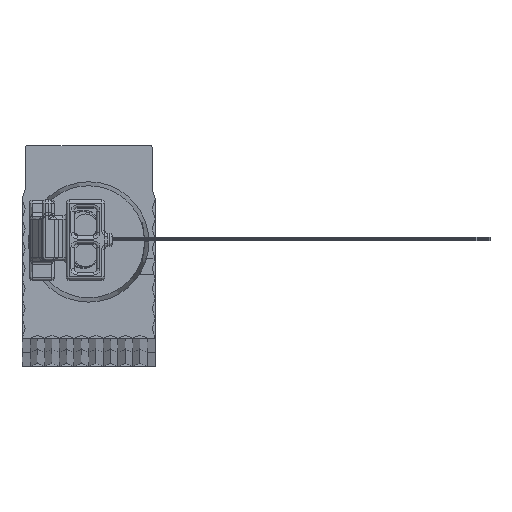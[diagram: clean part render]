
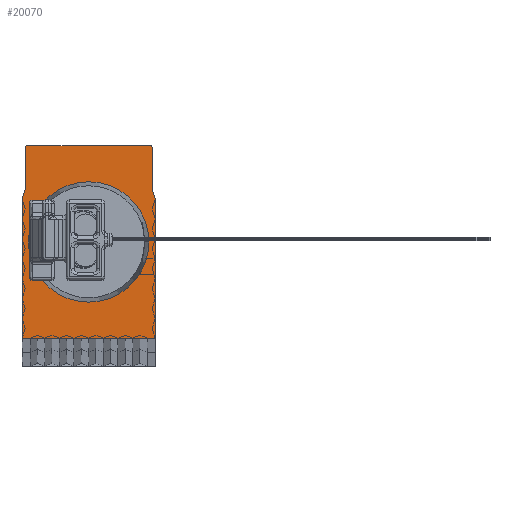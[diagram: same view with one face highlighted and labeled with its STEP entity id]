
A CAD part, top view. The second image highlights one B-rep face of the part: STEP entity #20070.
In plain terms, the highlighted planar face has unit normal (0, 0, 1).
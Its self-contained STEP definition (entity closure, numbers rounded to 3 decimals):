
#81 = DIRECTION ( 'NONE',  ( 0., 0., -1. ) ) ;
#373 = CIRCLE ( 'NONE', #2709, 0.1 ) ;
#728 = DIRECTION ( 'NONE',  ( 0.307, -0.952, 0. ) ) ;
#944 = VECTOR ( 'NONE', #14080, 1000. ) ;
#1108 = DIRECTION ( 'NONE',  ( 0., -1., 0. ) ) ;
#1178 = CARTESIAN_POINT ( 'NONE',  ( -4.15, 8.68, 0. ) ) ;
#1219 = CARTESIAN_POINT ( 'NONE',  ( 3.85, 12., 0. ) ) ;
#2050 = DIRECTION ( 'NONE',  ( 0., -1., 0. ) ) ;
#2675 = CARTESIAN_POINT ( 'NONE',  ( -3.95, 9.3, 0. ) ) ;
#2709 = AXIS2_PLACEMENT_3D ( 'NONE', #10850, #7290, #5450 ) ;
#2750 = CARTESIAN_POINT ( 'NONE',  ( -3.95, 9.3, 0. ) ) ;
#2791 = VECTOR ( 'NONE', #728, 1000. ) ;
#2938 = DIRECTION ( 'NONE',  ( 0., -1., 0. ) ) ;
#3384 = DIRECTION ( 'NONE',  ( 0.307, 0.952, 0. ) ) ;
#3750 = EDGE_LOOP ( 'NONE', ( #7066, #17452 ) ) ;
#3769 = CARTESIAN_POINT ( 'NONE',  ( 4.15, 20.668, 0. ) ) ;
#3827 = AXIS2_PLACEMENT_3D ( 'NONE', #4129, #22873, #4000 ) ;
#4000 = DIRECTION ( 'NONE',  ( 1., 0., 0. ) ) ;
#4001 = VECTOR ( 'NONE', #2938, 1000. ) ;
#4073 = AXIS2_PLACEMENT_3D ( 'NONE', #9583, #20593, #11061 ) ;
#4129 = CARTESIAN_POINT ( 'NONE',  ( 0., 6., 0. ) ) ;
#4161 = CARTESIAN_POINT ( 'NONE',  ( 4.15, 8.68, 0. ) ) ;
#4224 = VERTEX_POINT ( 'NONE', #2675 ) ;
#4387 = EDGE_CURVE ( 'NONE', #21118, #11752, #10763, .T. ) ;
#4490 = EDGE_CURVE ( 'NONE', #11978, #11752, #5729, .T. ) ;
#4913 = EDGE_CURVE ( 'NONE', #12511, #23833, #373, .T. ) ;
#5127 = CARTESIAN_POINT ( 'NONE',  ( 3.95, 9.3, 0. ) ) ;
#5224 = CARTESIAN_POINT ( 'NONE',  ( -4.15, 0., 0. ) ) ;
#5450 = DIRECTION ( 'NONE',  ( -1., 0., 0. ) ) ;
#5614 = EDGE_CURVE ( 'NONE', #4224, #12511, #12073, .T. ) ;
#5729 = LINE ( 'NONE', #3769, #13062 ) ;
#5821 = FACE_OUTER_BOUND ( 'NONE', #15336, .T. ) ;
#6264 = FACE_BOUND ( 'NONE', #3750, .T. ) ;
#6397 = EDGE_CURVE ( 'NONE', #8960, #21401, #21685, .T. ) ;
#6406 = VECTOR ( 'NONE', #1108, 1000. ) ;
#6408 = DIRECTION ( 'NONE',  ( 1., 0., 0. ) ) ;
#6559 = CIRCLE ( 'NONE', #3827, 3.75 ) ;
#6819 = CARTESIAN_POINT ( 'NONE',  ( -3.95, 11.9, 0. ) ) ;
#7066 = ORIENTED_EDGE ( 'NONE', *, *, #16928, .F. ) ;
#7085 = EDGE_CURVE ( 'NONE', #23833, #7748, #15727, .T. ) ;
#7290 = DIRECTION ( 'NONE',  ( 0., 0., -1. ) ) ;
#7338 = ORIENTED_EDGE ( 'NONE', *, *, #7687, .F. ) ;
#7687 = EDGE_CURVE ( 'NONE', #7748, #8960, #19604, .T. ) ;
#7748 = VERTEX_POINT ( 'NONE', #1219 ) ;
#8572 = VECTOR ( 'NONE', #19170, 1000. ) ;
#8960 = VERTEX_POINT ( 'NONE', #21934 ) ;
#9063 = ORIENTED_EDGE ( 'NONE', *, *, #9726, .F. ) ;
#9363 = CARTESIAN_POINT ( 'NONE',  ( -4.15, 20.668, 0. ) ) ;
#9583 = CARTESIAN_POINT ( 'NONE',  ( 0., 6., 0. ) ) ;
#9726 = EDGE_CURVE ( 'NONE', #9950, #4224, #12570, .T. ) ;
#9735 = ORIENTED_EDGE ( 'NONE', *, *, #4490, .F. ) ;
#9796 = ORIENTED_EDGE ( 'NONE', *, *, #23189, .T. ) ;
#9916 = VECTOR ( 'NONE', #3384, 1000. ) ;
#9950 = VERTEX_POINT ( 'NONE', #19288 ) ;
#10568 = CARTESIAN_POINT ( 'NONE',  ( 4.15, 0., 0. ) ) ;
#10763 = LINE ( 'NONE', #18226, #944 ) ;
#10850 = CARTESIAN_POINT ( 'NONE',  ( -3.85, 11.9, 0. ) ) ;
#10866 = ORIENTED_EDGE ( 'NONE', *, *, #6397, .F. ) ;
#11061 = DIRECTION ( 'NONE',  ( 1., 0., 0. ) ) ;
#11752 = VERTEX_POINT ( 'NONE', #10568 ) ;
#11978 = VERTEX_POINT ( 'NONE', #19021 ) ;
#12073 = LINE ( 'NONE', #2750, #8572 ) ;
#12297 = CIRCLE ( 'NONE', #4073, 3.75 ) ;
#12511 = VERTEX_POINT ( 'NONE', #6819 ) ;
#12570 = LINE ( 'NONE', #1178, #9916 ) ;
#12927 = EDGE_CURVE ( 'NONE', #12970, #23070, #12297, .T. ) ;
#12970 = VERTEX_POINT ( 'NONE', #15832 ) ;
#13062 = VECTOR ( 'NONE', #2050, 1000. ) ;
#13758 = DIRECTION ( 'NONE',  ( -1., 0., 0. ) ) ;
#14080 = DIRECTION ( 'NONE',  ( 1., 0., 0. ) ) ;
#14411 = EDGE_CURVE ( 'NONE', #21401, #11978, #20933, .T. ) ;
#14909 = PLANE ( 'NONE',  #20731 ) ;
#15213 = ORIENTED_EDGE ( 'NONE', *, *, #14411, .F. ) ;
#15336 = EDGE_LOOP ( 'NONE', ( #9735, #15213, #10866, #7338, #17099, #21672, #23333, #9063, #9796, #20953 ) ) ;
#15376 = CARTESIAN_POINT ( 'NONE',  ( -4.15, 12., 0. ) ) ;
#15727 = LINE ( 'NONE', #15376, #19998 ) ;
#15758 = CARTESIAN_POINT ( 'NONE',  ( 3.95, 9.3, 0. ) ) ;
#15832 = CARTESIAN_POINT ( 'NONE',  ( -3.75, 6., 0. ) ) ;
#16928 = EDGE_CURVE ( 'NONE', #23070, #12970, #6559, .T. ) ;
#17099 = ORIENTED_EDGE ( 'NONE', *, *, #7085, .F. ) ;
#17426 = CARTESIAN_POINT ( 'NONE',  ( 3.75, 6., 0. ) ) ;
#17452 = ORIENTED_EDGE ( 'NONE', *, *, #12927, .F. ) ;
#17884 = DIRECTION ( 'NONE',  ( 1., 0., 0. ) ) ;
#17893 = CARTESIAN_POINT ( 'NONE',  ( -4.15, 20.668, 0. ) ) ;
#18226 = CARTESIAN_POINT ( 'NONE',  ( -4.15, 0., 0. ) ) ;
#19021 = CARTESIAN_POINT ( 'NONE',  ( 4.15, 8.68, 0. ) ) ;
#19170 = DIRECTION ( 'NONE',  ( 0., 1., 0. ) ) ;
#19288 = CARTESIAN_POINT ( 'NONE',  ( -4.15, 8.68, 0. ) ) ;
#19604 = CIRCLE ( 'NONE', #22355, 0.1 ) ;
#19714 = DIRECTION ( 'NONE',  ( 0., 0., -1. ) ) ;
#19998 = VECTOR ( 'NONE', #6408, 1000. ) ;
#20070 = ADVANCED_FACE ( 'NONE', ( #6264, #5821 ), #14909, .F. ) ;
#20553 = CARTESIAN_POINT ( 'NONE',  ( -3.85, 12., 0. ) ) ;
#20593 = DIRECTION ( 'NONE',  ( 0., 0., 1. ) ) ;
#20731 = AXIS2_PLACEMENT_3D ( 'NONE', #9363, #81, #13758 ) ;
#20933 = LINE ( 'NONE', #4161, #2791 ) ;
#20953 = ORIENTED_EDGE ( 'NONE', *, *, #4387, .T. ) ;
#21118 = VERTEX_POINT ( 'NONE', #5224 ) ;
#21401 = VERTEX_POINT ( 'NONE', #15758 ) ;
#21565 = LINE ( 'NONE', #17893, #6406 ) ;
#21672 = ORIENTED_EDGE ( 'NONE', *, *, #4913, .F. ) ;
#21685 = LINE ( 'NONE', #5127, #4001 ) ;
#21934 = CARTESIAN_POINT ( 'NONE',  ( 3.95, 11.9, 0. ) ) ;
#22355 = AXIS2_PLACEMENT_3D ( 'NONE', #23511, #19714, #17884 ) ;
#22873 = DIRECTION ( 'NONE',  ( 0., 0., 1. ) ) ;
#23070 = VERTEX_POINT ( 'NONE', #17426 ) ;
#23189 = EDGE_CURVE ( 'NONE', #9950, #21118, #21565, .T. ) ;
#23333 = ORIENTED_EDGE ( 'NONE', *, *, #5614, .F. ) ;
#23511 = CARTESIAN_POINT ( 'NONE',  ( 3.85, 11.9, 0. ) ) ;
#23833 = VERTEX_POINT ( 'NONE', #20553 ) ;
